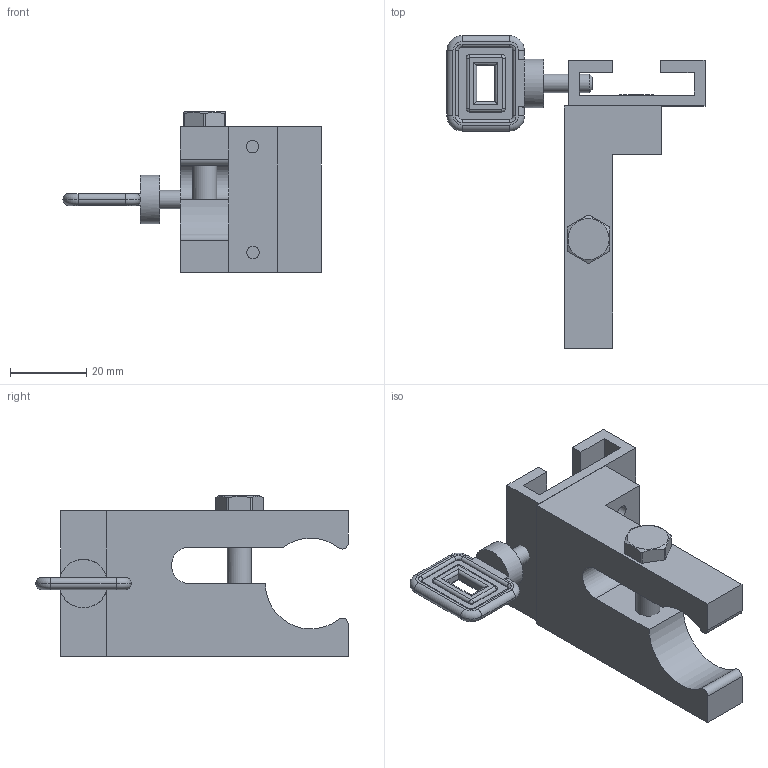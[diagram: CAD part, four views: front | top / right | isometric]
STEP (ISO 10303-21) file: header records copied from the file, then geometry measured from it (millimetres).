
FILE_DESCRIPTION((''),'2;1');
FILE_NAME('C:\3D Projects\3D Standard Parts\98326 Rev B Valve Mounting Bracket Kit For 98009 & 98013.stp','2008-04-24T10:04:32',('patch'),(''),'Autodesk Inventor 2008','Autodesk Inventor 2008','');
FILE_SCHEMA(('AUTOMOTIVE_DESIGN { 1 0 10303 214 1 1 1 1 }'));
Length unit declared in the file: inch
Products named in the file (6): 98326 Rev B Valve Mounting Bracket Kit For 98009 & 98013; 987947 Rev A C-Clamp; 987906 Valve Clamp For 98009 & 98013; 984331 Flat Head Socket Screw #8-32 x 0.5; 987948 Rev A Thumbscrew; 986419 Regular Hex Bolt 0.25-20 x 1.5
Assembly tree (6 placements, depth 2):
  98326 Rev B Valve Mounting Bracket Kit For 98009 & 98013
    987947 Rev A C-Clamp
    987906 Valve Clamp For 98009 & 98013
    984331 Flat Head Socket Screw #8-32 x 0.5  x2
    987948 Rev A Thumbscrew
    986419 Regular Hex Bolt 0.25-20 x 1.5
Bounding box: 67.67 x 81.99 x 42.07 mm (x, y, z)
Volume: 38977.8 mm3; surface area: 18930.2 mm2
Topology: 6 solids, 6 shells, 397 faces, 970 edges, 597 vertices
Faces by surface type: cylinder 142, cone 108, plane 94, bspline 34, torus 19
Full cylindrical faces by diameter (mm): 3.551 x22, 4.166 x22, 4.826 x1, 5.387 x14, 6.35 x14, 12.7 x1
Entity records: 12477 total; most frequent: CARTESIAN_POINT 5563, DIRECTION 1338, ORIENTED_EDGE 1304, EDGE_CURVE 652, AXIS2_PLACEMENT_3D 550, VERTEX_POINT 473, EDGE_LOOP 463, FACE_OUTER_BOUND 318
